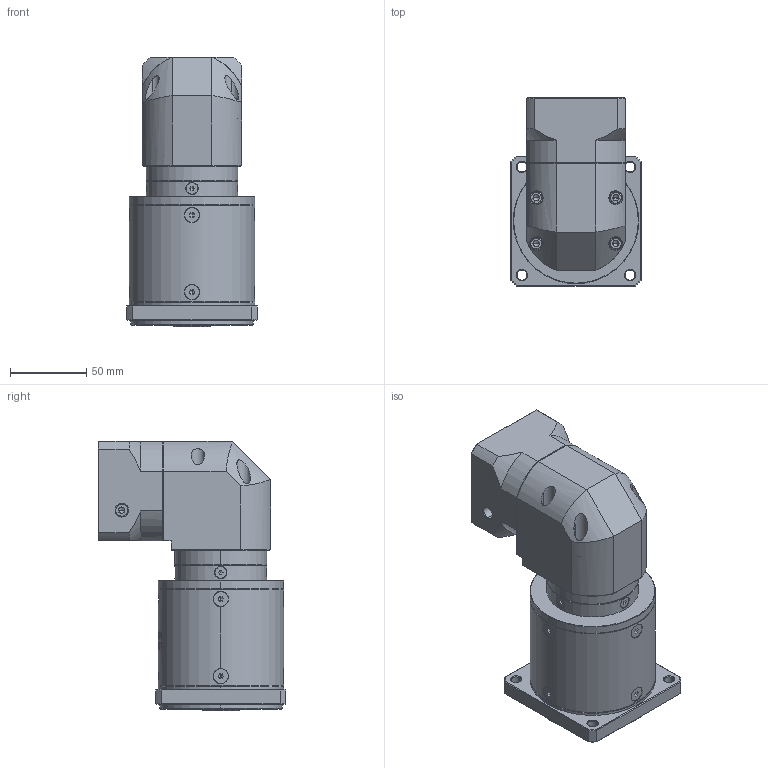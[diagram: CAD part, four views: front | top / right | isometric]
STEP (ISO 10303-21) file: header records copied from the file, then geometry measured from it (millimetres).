
FILE_DESCRIPTION (( 'STEP AP214' ), '1' );
FILE_NAME ('ZFR080-K15-L3-P2-11-60-75-M5.step', '2023-08-25T07:25:05', ( '' ), ( '' ), 'SwSTEP 2.0', 'SolidWorks 2016', '' );
FILE_SCHEMA (( 'AUTOMOTIVE_DESIGN' ));
Length unit declared in the file: millimetre
Products named in the file (1): ZFR080-K15-L3-P2-11-60-75-M5
Bounding box: 85 x 122.7 x 176 mm (x, y, z)
Volume: 885922.4 mm3; surface area: 107518.4 mm2
Topology: 17 solids, 18 shells, 2426 faces, 6338 edges, 4026 vertices
Faces by surface type: plane 1171, cylinder 444, bspline 402, cone 375, torus 34
Entity records: 125528 total; most frequent: CARTESIAN_POINT 44108, ORIENTED_EDGE 12588, DIRECTION 9695, EDGE_CURVE 6294, VERTEX_POINT 4026, VECTOR 3359, LINE 3359, AXIS2_PLACEMENT_3D 3168
